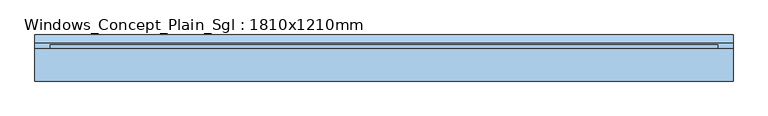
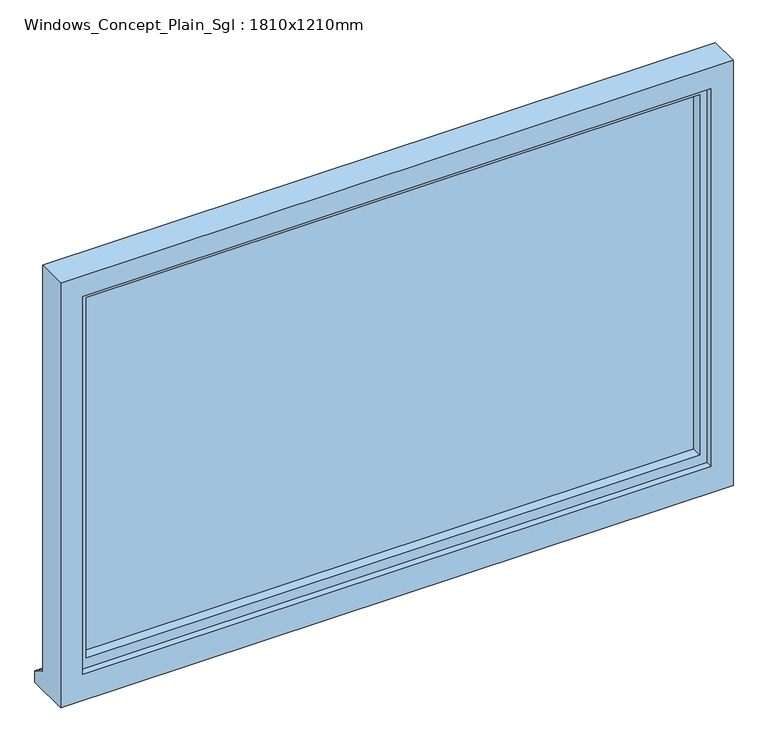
"""IFC4 building model written with IfcOpenShell, lengths in millimetres: window geometry, Windows_Concept_Plain_Sgl : 1810x1210mm."""

from ifc_helpers import new_model, si_unit, frame, origin, place, context, project, spatial, polyline, outline, extrude, faceted_brep, source, transform, mapped, element, save


def windows_concept_plain_sgl_1810x1210mm_7f7241d7(model_context):
    return source(origin(), model_context, "Body", "SolidModel", [
        faceted_brep([(-905.0, 76.4565678, 900.0), (905.0, 76.4565678, 900.0), (905.0, 76.4565678, 2110.0), (-905.0, 76.4565678, 2110.0), (-845.0, 76.4565678, 2050.0), (845.0, 76.4565678, 2050.0), (845.0, 76.4565678, 975.0), (-845.0, 76.4565678, 975.0), (-905.0, 159.4565678, 2110.0), (-905.0, 159.4565678, 951.0), (-905.0, 174.4565678, 949.68767), (-905.0, 174.4565678, 944.7449676), (-905.0, 195.9565678, 933.8088847), (-905.0, 195.9565678, 900.0), (905.0, 159.4565678, 2110.0), (905.0, 159.4565678, 951.0), (-865.0, 159.4565678, 2070.0), (-865.0, 159.4565678, 963.0), (865.0, 159.4565678, 963.0), (865.0, 159.4565678, 2070.0), (-865.0, 94.4565678, 2070.0), (-865.0, 94.4565678, 963.0), (865.0, 94.4565678, 2070.0), (865.0, 94.4565678, 963.0), (-845.0, 94.4565678, 2050.0), (-845.0, 94.4565678, 975.0), (845.0, 94.4565678, 975.0), (845.0, 94.4565678, 2050.0), (905.0, 195.9565678, 900.0), (905.0, 195.9565678, 933.8088847), (905.0, 174.4565678, 944.7449676), (905.0, 174.4565678, 949.68767)], [[[0, 1, 2, 3], [4, 5, 6, 7]], [[0, 3, 8, 9, 10, 11, 12, 13]], [[9, 8, 14, 15], [16, 17, 18, 19]], [[17, 16, 20, 21]], [[20, 22, 23, 21], [24, 25, 26, 27]], [[24, 4, 7, 25]], [[3, 2, 14, 8]], [[16, 19, 22, 20]], [[5, 4, 24, 27]], [[15, 14, 2, 1, 28, 29, 30, 31]], [[19, 18, 23, 22]], [[5, 27, 26, 6]], [[28, 1, 0, 13]], [[29, 28, 13, 12]], [[30, 29, 12, 11]], [[31, 30, 11, 10]], [[15, 31, 10, 9]], [[21, 23, 18, 17]], [[7, 6, 26, 25]]]),
        extrude(outline(polyline([(835.0, 123.4565678), (-835.0, 123.4565678), (-835.0, 147.4565678), (835.0, 147.4565678), (835.0, 123.4565678)])), frame((0.0, 0.0, 993.0), z_axis=(0.0, 0.0, 1.0), x_axis=(1.0, 0.0, 0.0)), (0.0, 0.0, 1.0), 1047.0),
        faceted_brep([(-865.0, 94.4565678, 2070.0), (-865.0, 171.0035732, 2070.0), (-865.0, 171.0035732, 963.0), (-865.0, 94.4565678, 963.0), (-825.0, 123.4565678, 2030.0), (-825.0, 94.4565678, 2030.0), (-825.0, 94.4565678, 1003.0), (-825.0, 123.4565678, 1003.0), (-835.0, 147.4565678, 2040.0), (-835.0, 123.4565678, 2040.0), (-835.0, 123.4565678, 993.0), (-835.0, 147.4565678, 993.0), (-825.0, 171.0035732, 2030.0), (-825.0, 147.4565678, 2030.0), (-825.0, 147.4565678, 1003.0), (-825.0, 171.0035732, 1003.0), (865.0, 171.0035732, 963.0), (865.0, 94.4565678, 963.0), (825.0, 94.4565678, 1003.0), (825.0, 123.4565678, 1003.0), (835.0, 123.4565678, 993.0), (835.0, 147.4565678, 993.0), (825.0, 147.4565678, 1003.0), (825.0, 171.0035732, 1003.0), (865.0, 171.0035732, 2070.0), (865.0, 94.4565678, 2070.0), (825.0, 94.4565678, 2030.0), (825.0, 123.4565678, 2030.0), (835.0, 123.4565678, 2040.0), (835.0, 147.4565678, 2040.0), (825.0, 147.4565678, 2030.0), (825.0, 171.0035732, 2030.0)], [[[0, 1, 2, 3]], [[4, 5, 6, 7]], [[8, 9, 10, 11]], [[12, 13, 14, 15]], [[3, 2, 16, 17]], [[7, 6, 18, 19]], [[11, 10, 20, 21]], [[15, 14, 22, 23]], [[17, 16, 24, 25]], [[19, 18, 26, 27]], [[21, 20, 28, 29]], [[23, 22, 30, 31]], [[1, 24, 16, 2], [15, 23, 31, 12]], [[25, 24, 1, 0]], [[3, 17, 25, 0], [5, 26, 18, 6]], [[27, 26, 5, 4]], [[9, 28, 20, 10], [7, 19, 27, 4]], [[29, 28, 9, 8]], [[11, 21, 29, 8], [13, 30, 22, 14]], [[31, 30, 13, 12]]]),
    ])


if __name__ == "__main__":
    model = new_model("IFC4")
    model_context = context("Model", 3, world=origin())
    ifc_project = project(units=[si_unit("LENGTHUNIT", "METRE", prefix="MILLI")], contexts=[model_context])
    site = spatial("IfcSite", under=ifc_project)
    building = spatial("IfcBuilding", under=site)
    placement = place(None, origin())
    windows_concept_plain_sgl_1810x1210mm_shape = windows_concept_plain_sgl_1810x1210mm_7f7241d7(model_context)
    element("IfcWindow", 1, ObjectType="Windows_Concept_Plain_Sgl : 1810x1210mm", at=placement, inside=building, context=model_context, shape_type="MappedRepresentation", body=[
        mapped(windows_concept_plain_sgl_1810x1210mm_shape, transform((0.0, 0.0, 0.0), x_axis=(1.0, 0.0, 0.0), y_axis=(0.0, 1.0, 0.0), z_axis=(0.0, 0.0, 1.0))),
    ])
    save(model, "model.ifc")
